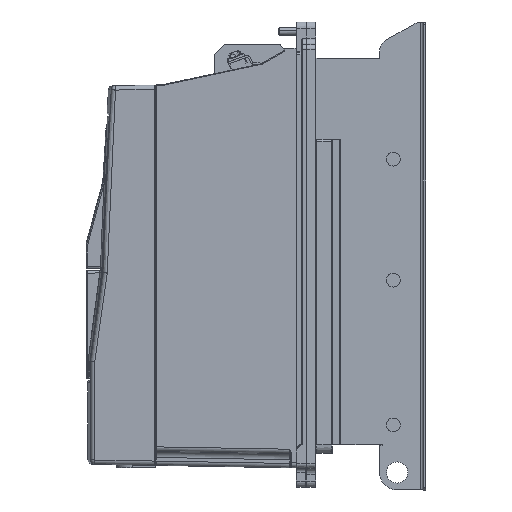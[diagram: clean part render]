
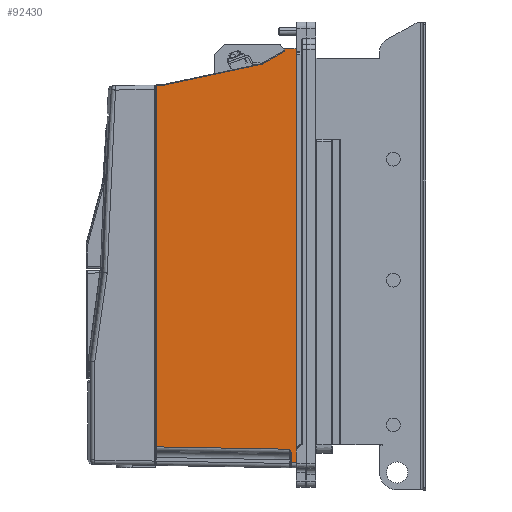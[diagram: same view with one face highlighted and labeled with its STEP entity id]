
A CAD part, left-side view. The second image highlights one B-rep face of the part: STEP entity #92430.
In plain terms, the highlighted planar face has unit normal (-1, 0.018, 0).
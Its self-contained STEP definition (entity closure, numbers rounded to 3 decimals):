
#148 = CARTESIAN_POINT ( 'NONE',  ( -110.658, -44.991, 164.784 ) ) ;
#529 = VERTEX_POINT ( 'NONE', #148 ) ;
#952 = EDGE_CURVE ( 'NONE', #25681, #15425, #74897, .T. ) ;
#1283 = VECTOR ( 'NONE', #28453, 1000. ) ;
#1634 = CARTESIAN_POINT ( 'NONE',  ( -108.889, 53.518, 136.593 ) ) ;
#3790 = VECTOR ( 'NONE', #60131, 1000. ) ;
#4840 = EDGE_CURVE ( 'NONE', #7193, #38094, #10408, .T. ) ;
#5168 = CARTESIAN_POINT ( 'NONE',  ( -110.747, -49.991, -157.617 ) ) ;
#5954 = CARTESIAN_POINT ( 'NONE',  ( -110.332, -26.837, 153.723 ) ) ;
#6525 = AXIS2_PLACEMENT_3D ( 'NONE', #74241, #82034, #22710 ) ;
#7070 = CARTESIAN_POINT ( 'NONE',  ( -110.649, -44.491, 163.917 ) ) ;
#7193 = VERTEX_POINT ( 'NONE', #80952 ) ;
#7580 = EDGE_CURVE ( 'NONE', #13614, #85984, #80835, .T. ) ;
#8010 = DIRECTION ( 'NONE',  ( 0.018, 1., -0.017 ) ) ;
#9675 = VECTOR ( 'NONE', #8010, 1000. ) ;
#10408 = LINE ( 'NONE', #54547, #82778 ) ;
#10423 = CARTESIAN_POINT ( 'NONE',  ( -110.734, -49.246, -155.402 ) ) ;
#11170 = CARTESIAN_POINT ( 'NONE',  ( -110.747, -49.991, -165.929 ) ) ;
#11180 = LINE ( 'NONE', #49388, #16264 ) ;
#12602 = EDGE_CURVE ( 'NONE', #13614, #14269, #90753, .T. ) ;
#12909 = ORIENTED_EDGE ( 'NONE', *, *, #952, .T. ) ;
#13328 = CARTESIAN_POINT ( 'NONE',  ( -110.743, -49.76, -156.465 ) ) ;
#13614 = VERTEX_POINT ( 'NONE', #41968 ) ;
#14269 = VERTEX_POINT ( 'NONE', #85225 ) ;
#15047 = CARTESIAN_POINT ( 'NONE',  ( -108.891, 53.455, 136.607 ) ) ;
#15083 = EDGE_CURVE ( 'NONE', #38094, #25681, #84703, .T. ) ;
#15425 = VERTEX_POINT ( 'NONE', #5168 ) ;
#15759 = CARTESIAN_POINT ( 'NONE',  ( -110.819, -54., 170. ) ) ;
#15840 = CARTESIAN_POINT ( 'NONE',  ( -108.81, 57.916, 136.51 ) ) ;
#16264 = VECTOR ( 'NONE', #19966, 1000. ) ;
#16526 = ORIENTED_EDGE ( 'NONE', *, *, #74798, .F. ) ;
#19265 = VERTEX_POINT ( 'NONE', #21649 ) ;
#19966 = DIRECTION ( 'NONE',  ( 0., 0., -1. ) ) ;
#21649 = CARTESIAN_POINT ( 'NONE',  ( -110.332, -26.837, 153.723 ) ) ;
#22029 = VERTEX_POINT ( 'NONE', #11170 ) ;
#22710 = DIRECTION ( 'NONE',  ( 0.018, 1., 0. ) ) ;
#24048 = CARTESIAN_POINT ( 'NONE',  ( -110.326, -26.545, 153.611 ) ) ;
#25681 = VERTEX_POINT ( 'NONE', #71908 ) ;
#25828 = ORIENTED_EDGE ( 'NONE', *, *, #57049, .T. ) ;
#27170 = EDGE_CURVE ( 'NONE', #72921, #19265, #57312, .T. ) ;
#27324 =( BOUNDED_CURVE ( )  B_SPLINE_CURVE ( 3, ( #29920, #27993, #73616, #5954 ),
 .UNSPECIFIED., .F., .F. ) 
 B_SPLINE_CURVE_WITH_KNOTS ( ( 4, 4 ),
 ( 4.398, 4.712 ),
 .UNSPECIFIED. ) 
 CURVE ( )  GEOMETRIC_REPRESENTATION_ITEM ( )  RATIONAL_B_SPLINE_CURVE ( ( 1., 0.992, 0.992, 1. ) ) 
 REPRESENTATION_ITEM ( '' )  );
#27533 = CARTESIAN_POINT ( 'NONE',  ( -110.658, -44.991, 166. ) ) ;
#27993 = CARTESIAN_POINT ( 'NONE',  ( -110.328, -26.648, 153.633 ) ) ;
#28236 = EDGE_LOOP ( 'NONE', ( #54999, #33229, #25828, #89436, #92611, #16526, #94085, #82257, #72757, #43870, #36456, #12909, #38461, #90922 ) ) ;
#28453 = DIRECTION ( 'NONE',  ( -0.018, -1., -0.018 ) ) ;
#28491 = CARTESIAN_POINT ( 'NONE',  ( -110.747, -49.991, -157.617 ) ) ;
#29069 = EDGE_CURVE ( 'NONE', #22029, #14269, #64768, .T. ) ;
#29609 = FACE_OUTER_BOUND ( 'NONE', #28236, .T. ) ;
#29920 = CARTESIAN_POINT ( 'NONE',  ( -110.326, -26.545, 153.611 ) ) ;
#30095 = CARTESIAN_POINT ( 'NONE',  ( -110.658, -44.991, 164.784 ) ) ;
#30343 = LINE ( 'NONE', #82792, #32906 ) ;
#32906 = VECTOR ( 'NONE', #52907, 1000. ) ;
#33229 = ORIENTED_EDGE ( 'NONE', *, *, #7580, .T. ) ;
#36456 = ORIENTED_EDGE ( 'NONE', *, *, #15083, .T. ) ;
#37180 =( BOUNDED_CURVE ( )  B_SPLINE_CURVE ( 3, ( #46767, #54117, #1634, #70299 ),
 .UNSPECIFIED., .F., .F. ) 
 B_SPLINE_CURVE_WITH_KNOTS ( ( 4, 4 ),
 ( 1.588, 1.78 ),
 .UNSPECIFIED. ) 
 CURVE ( )  GEOMETRIC_REPRESENTATION_ITEM ( )  RATIONAL_B_SPLINE_CURVE ( ( 1., 0.997, 0.997, 1. ) ) 
 REPRESENTATION_ITEM ( '' )  );
#38094 = VERTEX_POINT ( 'NONE', #78697 ) ;
#38461 = ORIENTED_EDGE ( 'NONE', *, *, #39204, .T. ) ;
#38908 =( BOUNDED_CURVE ( )  B_SPLINE_CURVE ( 3, ( #7070, #75704, #44813, #30095 ),
 .UNSPECIFIED., .F., .F. ) 
 B_SPLINE_CURVE_WITH_KNOTS ( ( 4, 4 ),
 ( 4.712, 5.76 ),
 .UNSPECIFIED. ) 
 CURVE ( )  GEOMETRIC_REPRESENTATION_ITEM ( )  RATIONAL_B_SPLINE_CURVE ( ( 1., 0.911, 0.911, 1. ) ) 
 REPRESENTATION_ITEM ( '' )  );
#39204 = EDGE_CURVE ( 'NONE', #15425, #22029, #30343, .T. ) ;
#39452 = CARTESIAN_POINT ( 'NONE',  ( -108.887, 53.646, 136.585 ) ) ;
#40221 = VECTOR ( 'NONE', #71559, 1000. ) ;
#41666 = CARTESIAN_POINT ( 'NONE',  ( -108.8, 58.5, 166. ) ) ;
#41968 = CARTESIAN_POINT ( 'NONE',  ( -110.819, -54., 166. ) ) ;
#42127 = CARTESIAN_POINT ( 'NONE',  ( -110.33, -26.763, 153.681 ) ) ;
#43870 = ORIENTED_EDGE ( 'NONE', *, *, #4840, .T. ) ;
#44185 = CARTESIAN_POINT ( 'NONE',  ( -110.738, -49.482, -155.814 ) ) ;
#44429 = CARTESIAN_POINT ( 'NONE',  ( -110.649, -44.491, 163.917 ) ) ;
#44668 = CARTESIAN_POINT ( 'NONE',  ( -110.745, -49.84, -156.69 ) ) ;
#44813 = CARTESIAN_POINT ( 'NONE',  ( -110.658, -44.991, 164.418 ) ) ;
#46767 = CARTESIAN_POINT ( 'NONE',  ( -108.887, 53.646, 136.585 ) ) ;
#47113 = DIRECTION ( 'NONE',  ( 0., 0., -1. ) ) ;
#47673 = CARTESIAN_POINT ( 'NONE',  ( -110.73, -49.009, -154.992 ) ) ;
#49388 = CARTESIAN_POINT ( 'NONE',  ( -110.658, -44.991, 170. ) ) ;
#50093 = CARTESIAN_POINT ( 'NONE',  ( -110.747, -49.991, -157.379 ) ) ;
#50451 = VERTEX_POINT ( 'NONE', #39452 ) ;
#52907 = DIRECTION ( 'NONE',  ( 0., 0., -1. ) ) ;
#53388 = VERTEX_POINT ( 'NONE', #24048 ) ;
#54117 = CARTESIAN_POINT ( 'NONE',  ( -108.888, 53.582, 136.586 ) ) ;
#54547 = CARTESIAN_POINT ( 'NONE',  ( -108.809, 58.009, 170. ) ) ;
#54960 = VERTEX_POINT ( 'NONE', #15047 ) ;
#54999 = ORIENTED_EDGE ( 'NONE', *, *, #12602, .F. ) ;
#55461 = VECTOR ( 'NONE', #63638, 1000. ) ;
#57049 = EDGE_CURVE ( 'NONE', #85984, #529, #11180, .T. ) ;
#57312 = LINE ( 'NONE', #42127, #40221 ) ;
#58276 = VECTOR ( 'NONE', #47113, 1000. ) ;
#59396 = CARTESIAN_POINT ( 'NONE',  ( -110.747, -49.956, -157.147 ) ) ;
#59958 = EDGE_CURVE ( 'NONE', #53388, #54960, #61568, .T. ) ;
#60131 = DIRECTION ( 'NONE',  ( 0.018, 0.978, -0.208 ) ) ;
#60282 = EDGE_CURVE ( 'NONE', #72921, #529, #38908, .T. ) ;
#61568 = LINE ( 'NONE', #91439, #3790 ) ;
#63638 = DIRECTION ( 'NONE',  ( -0.018, -1., -0.017 ) ) ;
#64768 = LINE ( 'NONE', #88273, #1283 ) ;
#69819 = EDGE_CURVE ( 'NONE', #50451, #54960, #37180, .T. ) ;
#70299 = CARTESIAN_POINT ( 'NONE',  ( -108.891, 53.455, 136.607 ) ) ;
#71559 = DIRECTION ( 'NONE',  ( 0.016, 0.866, -0.5 ) ) ;
#71908 = CARTESIAN_POINT ( 'NONE',  ( -110.73, -49.009, -154.992 ) ) ;
#72757 = ORIENTED_EDGE ( 'NONE', *, *, #76751, .T. ) ;
#72921 = VERTEX_POINT ( 'NONE', #44429 ) ;
#73616 = CARTESIAN_POINT ( 'NONE',  ( -110.33, -26.746, 153.671 ) ) ;
#74241 = CARTESIAN_POINT ( 'NONE',  ( -108.8, 58.5, 170. ) ) ;
#74798 = EDGE_CURVE ( 'NONE', #53388, #19265, #27324, .T. ) ;
#74897 = B_SPLINE_CURVE_WITH_KNOTS ( 'NONE', 3,
 ( #47673, #10423, #44185, #13328, #44668, #59396, #50093, #28491 ),
 .UNSPECIFIED., .F., .F.,
 ( 4, 2, 2, 4 ),
 ( 0., 0.001, 0.002, 0.003 ),
 .UNSPECIFIED. ) ;
#75704 = CARTESIAN_POINT ( 'NONE',  ( -110.654, -44.808, 164.1 ) ) ;
#76751 = EDGE_CURVE ( 'NONE', #50451, #7193, #83480, .T. ) ;
#78697 = CARTESIAN_POINT ( 'NONE',  ( -108.809, 58.009, -153.124 ) ) ;
#80835 = LINE ( 'NONE', #41666, #87817 ) ;
#80952 = CARTESIAN_POINT ( 'NONE',  ( -108.809, 58.009, 136.509 ) ) ;
#82034 = DIRECTION ( 'NONE',  ( 1., -0.018, 0. ) ) ;
#82257 = ORIENTED_EDGE ( 'NONE', *, *, #69819, .F. ) ;
#82778 = VECTOR ( 'NONE', #85881, 1000. ) ;
#82792 = CARTESIAN_POINT ( 'NONE',  ( -110.747, -49.991, -165.921 ) ) ;
#83480 = LINE ( 'NONE', #15840, #9675 ) ;
#84703 = LINE ( 'NONE', #85680, #55461 ) ;
#85225 = CARTESIAN_POINT ( 'NONE',  ( -110.819, -54., -166.001 ) ) ;
#85680 = CARTESIAN_POINT ( 'NONE',  ( -108.699, 64.136, -153.017 ) ) ;
#85881 = DIRECTION ( 'NONE',  ( 0., 0., -1. ) ) ;
#85984 = VERTEX_POINT ( 'NONE', #27533 ) ;
#87817 = VECTOR ( 'NONE', #94554, 1000. ) ;
#88273 = CARTESIAN_POINT ( 'NONE',  ( -108.693, 64.434, -163.895 ) ) ;
#89436 = ORIENTED_EDGE ( 'NONE', *, *, #60282, .F. ) ;
#89877 = PLANE ( 'NONE',  #6525 ) ;
#90753 = LINE ( 'NONE', #15759, #58276 ) ;
#90922 = ORIENTED_EDGE ( 'NONE', *, *, #29069, .T. ) ;
#91439 = CARTESIAN_POINT ( 'NONE',  ( -108.926, 51.493, 137.024 ) ) ;
#92430 = ADVANCED_FACE ( 'NONE', ( #29609 ), #89877, .F. ) ;
#92611 = ORIENTED_EDGE ( 'NONE', *, *, #27170, .T. ) ;
#94085 = ORIENTED_EDGE ( 'NONE', *, *, #59958, .T. ) ;
#94554 = DIRECTION ( 'NONE',  ( 0.018, 1., 0. ) ) ;
